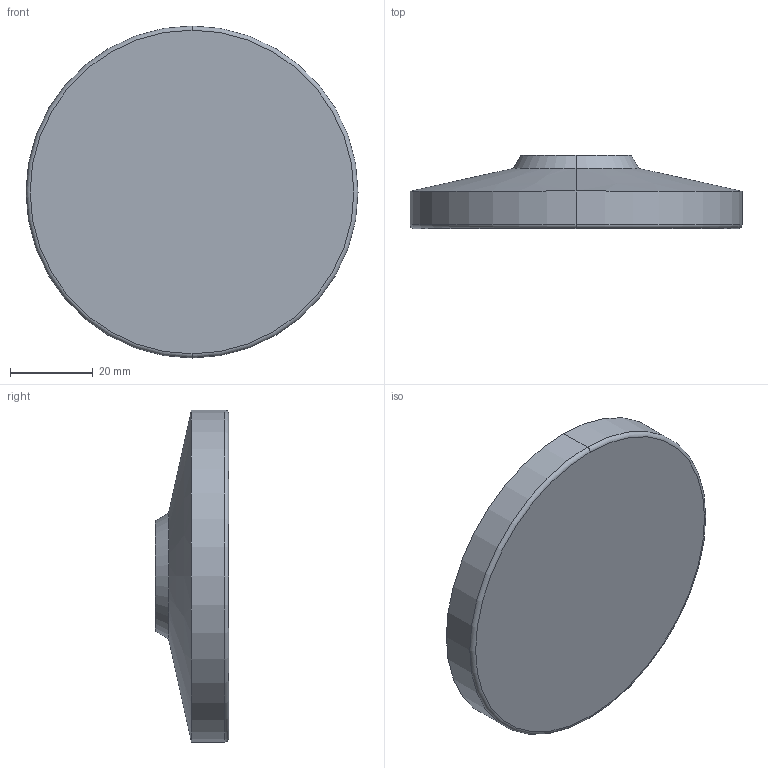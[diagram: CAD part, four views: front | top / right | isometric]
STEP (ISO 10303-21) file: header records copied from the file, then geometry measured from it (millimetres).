
FILE_DESCRIPTION (( 'STEP AP214' ), '1' );
FILE_NAME ('6311.3-80-18-N.step', '2023-04-17T05:34:36', ( '' ), ( '' ), 'SwSTEP 2.0', 'SolidWorks 2022', '' );
FILE_SCHEMA (( 'AUTOMOTIVE_DESIGN' ));
Length unit declared in the file: millimetre
Products named in the file (1): 6311.3-80-18-N
Bounding box: 80 x 17.7 x 80 mm (x, y, z)
Volume: 59870.5 mm3; surface area: 13931.1 mm2
Topology: 1 solids, 1 shells, 30 faces, 67 edges, 42 vertices
Faces by surface type: cylinder 12, torus 6, plane 6, cone 4, sphere 2
Entity records: 990 total; most frequent: CARTESIAN_POINT 176, DIRECTION 169, ORIENTED_EDGE 134, AXIS2_PLACEMENT_3D 75, EDGE_CURVE 67, CIRCLE 44, VERTEX_POINT 42, EDGE_LOOP 33
